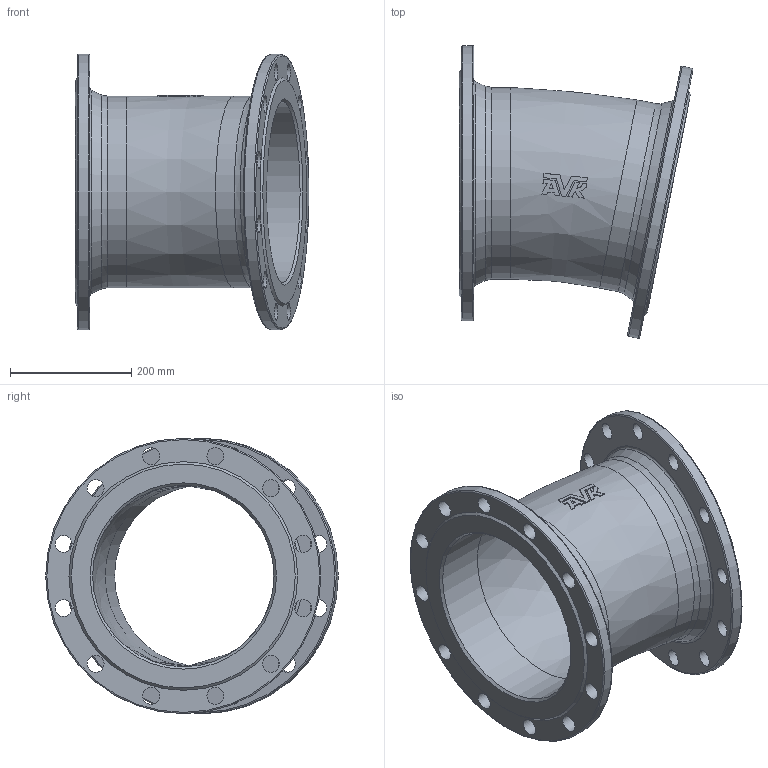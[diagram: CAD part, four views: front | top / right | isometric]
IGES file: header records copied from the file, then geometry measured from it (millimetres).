
Start section: SolidWorks IGES file using analytic representation for surfaces
Global section: file name: \\avksan2\techshare\PBM outline export from Enovia\O_712_0110_DN300_1X_REV01.igs; native system: SolidWorks 2022; preprocessor: SolidWorks 2022; author: pbm; date: 240815.105544; units: millimetre
Bounding box: 386.74 x 483.64 x 455 mm (x, y, z)
Surface area: 1029547.3 mm2 (no closed solid volume)
Topology: 0 solids, 0 shells, 93 faces, 451 edges, 405 vertices
Faces by surface type: revolution 52, bspline 41
